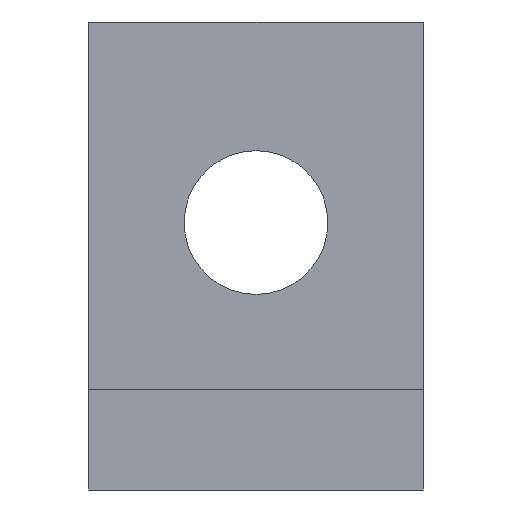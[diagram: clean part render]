
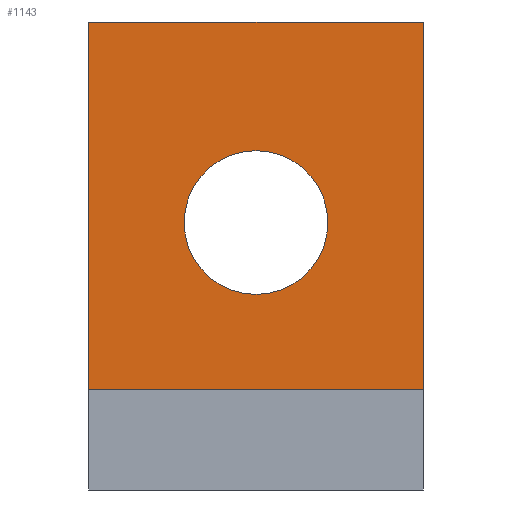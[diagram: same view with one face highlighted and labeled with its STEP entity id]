
A CAD part, front view. The second image highlights one B-rep face of the part: STEP entity #1143.
In plain terms, the highlighted planar face has unit normal (0, -1, 0).
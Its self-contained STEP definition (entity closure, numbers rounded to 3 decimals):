
#24 = VERTEX_POINT('',#25);
#25 = CARTESIAN_POINT('',(-5.,-5.7,13.));
#32 = PLANE('',#33);
#33 = AXIS2_PLACEMENT_3D('',#34,#35,#36);
#34 = CARTESIAN_POINT('',(-5.,-6.,10.));
#35 = DIRECTION('',(1.,0.,-0.));
#36 = DIRECTION('',(0.,0.,1.));
#44 = PLANE('',#45);
#45 = AXIS2_PLACEMENT_3D('',#46,#47,#48);
#46 = CARTESIAN_POINT('',(-5.,-6.,13.));
#47 = DIRECTION('',(0.,0.,1.));
#48 = DIRECTION('',(1.,0.,-0.));
#309 = VERTEX_POINT('',#310);
#310 = CARTESIAN_POINT('',(-5.,-5.7,24.));
#324 = PLANE('',#325);
#325 = AXIS2_PLACEMENT_3D('',#326,#327,#328);
#326 = CARTESIAN_POINT('',(-5.,-5.7,24.));
#327 = DIRECTION('',(0.,0.,1.));
#328 = DIRECTION('',(1.,0.,-0.));
#336 = EDGE_CURVE('',#24,#309,#337,.T.);
#337 = SURFACE_CURVE('',#338,(#342,#349),.PCURVE_S1.);
#338 = LINE('',#339,#340);
#339 = CARTESIAN_POINT('',(-5.,-5.7,12.));
#340 = VECTOR('',#341,1.);
#341 = DIRECTION('',(0.,0.,1.));
#342 = PCURVE('',#32,#343);
#343 = DEFINITIONAL_REPRESENTATION('',(#344),#348);
#344 = LINE('',#345,#346);
#345 = CARTESIAN_POINT('',(2.,-0.3));
#346 = VECTOR('',#347,1.);
#347 = DIRECTION('',(1.,0.));
#348 = ( GEOMETRIC_REPRESENTATION_CONTEXT(2) 
PARAMETRIC_REPRESENTATION_CONTEXT() REPRESENTATION_CONTEXT('2D SPACE',''
  ) );
#349 = PCURVE('',#350,#355);
#350 = PLANE('',#351);
#351 = AXIS2_PLACEMENT_3D('',#352,#353,#354);
#352 = CARTESIAN_POINT('',(-5.,-5.7,12.));
#353 = DIRECTION('',(-0.,1.,0.));
#354 = DIRECTION('',(0.,0.,1.));
#355 = DEFINITIONAL_REPRESENTATION('',(#356),#360);
#356 = LINE('',#357,#358);
#357 = CARTESIAN_POINT('',(0.,0.));
#358 = VECTOR('',#359,1.);
#359 = DIRECTION('',(1.,0.));
#360 = ( GEOMETRIC_REPRESENTATION_CONTEXT(2) 
PARAMETRIC_REPRESENTATION_CONTEXT() REPRESENTATION_CONTEXT('2D SPACE',''
  ) );
#390 = VERTEX_POINT('',#391);
#391 = CARTESIAN_POINT('',(5.,-5.7,13.));
#405 = PLANE('',#406);
#406 = AXIS2_PLACEMENT_3D('',#407,#408,#409);
#407 = CARTESIAN_POINT('',(5.,-6.,10.));
#408 = DIRECTION('',(1.,0.,-0.));
#409 = DIRECTION('',(0.,0.,1.));
#417 = EDGE_CURVE('',#390,#24,#418,.T.);
#418 = SURFACE_CURVE('',#419,(#423,#429),.PCURVE_S1.);
#419 = LINE('',#420,#421);
#420 = CARTESIAN_POINT('',(-5.,-5.7,13.));
#421 = VECTOR('',#422,1.);
#422 = DIRECTION('',(-1.,-0.,0.));
#423 = PCURVE('',#44,#424);
#424 = DEFINITIONAL_REPRESENTATION('',(#425),#428);
#425 = B_SPLINE_CURVE_WITH_KNOTS('',1,(#426,#427),.UNSPECIFIED.,.F.,.F.,
  (2,2),(-10.,0.),.PIECEWISE_BEZIER_KNOTS.);
#426 = CARTESIAN_POINT('',(10.,0.3));
#427 = CARTESIAN_POINT('',(0.,0.3));
#428 = ( GEOMETRIC_REPRESENTATION_CONTEXT(2) 
PARAMETRIC_REPRESENTATION_CONTEXT() REPRESENTATION_CONTEXT('2D SPACE',''
  ) );
#429 = PCURVE('',#350,#430);
#430 = DEFINITIONAL_REPRESENTATION('',(#431),#434);
#431 = B_SPLINE_CURVE_WITH_KNOTS('',1,(#432,#433),.UNSPECIFIED.,.F.,.F.,
  (2,2),(-10.,0.),.PIECEWISE_BEZIER_KNOTS.);
#432 = CARTESIAN_POINT('',(1.,10.));
#433 = CARTESIAN_POINT('',(1.,0.));
#434 = ( GEOMETRIC_REPRESENTATION_CONTEXT(2) 
PARAMETRIC_REPRESENTATION_CONTEXT() REPRESENTATION_CONTEXT('2D SPACE',''
  ) );
#1083 = CYLINDRICAL_SURFACE('',#1084,2.15);
#1084 = AXIS2_PLACEMENT_3D('',#1085,#1086,#1087);
#1085 = CARTESIAN_POINT('',(0.,7.,18.));
#1086 = DIRECTION('',(0.,-1.,0.));
#1087 = DIRECTION('',(1.,0.,0.));
#1099 = EDGE_CURVE('',#309,#1100,#1102,.T.);
#1100 = VERTEX_POINT('',#1101);
#1101 = CARTESIAN_POINT('',(5.,-5.7,24.));
#1102 = SURFACE_CURVE('',#1103,(#1107,#1114),.PCURVE_S1.);
#1103 = LINE('',#1104,#1105);
#1104 = CARTESIAN_POINT('',(-5.,-5.7,24.));
#1105 = VECTOR('',#1106,1.);
#1106 = DIRECTION('',(1.,0.,-0.));
#1107 = PCURVE('',#324,#1108);
#1108 = DEFINITIONAL_REPRESENTATION('',(#1109),#1113);
#1109 = LINE('',#1110,#1111);
#1110 = CARTESIAN_POINT('',(0.,0.));
#1111 = VECTOR('',#1112,1.);
#1112 = DIRECTION('',(1.,0.));
#1113 = ( GEOMETRIC_REPRESENTATION_CONTEXT(2) 
PARAMETRIC_REPRESENTATION_CONTEXT() REPRESENTATION_CONTEXT('2D SPACE',''
  ) );
#1114 = PCURVE('',#350,#1115);
#1115 = DEFINITIONAL_REPRESENTATION('',(#1116),#1120);
#1116 = LINE('',#1117,#1118);
#1117 = CARTESIAN_POINT('',(12.,0.));
#1118 = VECTOR('',#1119,1.);
#1119 = DIRECTION('',(0.,1.));
#1120 = ( GEOMETRIC_REPRESENTATION_CONTEXT(2) 
PARAMETRIC_REPRESENTATION_CONTEXT() REPRESENTATION_CONTEXT('2D SPACE',''
  ) );
#1143 = ADVANCED_FACE('',(#1144,#1170),#350,.F.);
#1144 = FACE_BOUND('',#1145,.F.);
#1145 = EDGE_LOOP('',(#1146,#1167,#1168,#1169));
#1146 = ORIENTED_EDGE('',*,*,#1147,.F.);
#1147 = EDGE_CURVE('',#390,#1100,#1148,.T.);
#1148 = SURFACE_CURVE('',#1149,(#1153,#1160),.PCURVE_S1.);
#1149 = LINE('',#1150,#1151);
#1150 = CARTESIAN_POINT('',(5.,-5.7,12.));
#1151 = VECTOR('',#1152,1.);
#1152 = DIRECTION('',(0.,0.,1.));
#1153 = PCURVE('',#350,#1154);
#1154 = DEFINITIONAL_REPRESENTATION('',(#1155),#1159);
#1155 = LINE('',#1156,#1157);
#1156 = CARTESIAN_POINT('',(0.,10.));
#1157 = VECTOR('',#1158,1.);
#1158 = DIRECTION('',(1.,0.));
#1159 = ( GEOMETRIC_REPRESENTATION_CONTEXT(2) 
PARAMETRIC_REPRESENTATION_CONTEXT() REPRESENTATION_CONTEXT('2D SPACE',''
  ) );
#1160 = PCURVE('',#405,#1161);
#1161 = DEFINITIONAL_REPRESENTATION('',(#1162),#1166);
#1162 = LINE('',#1163,#1164);
#1163 = CARTESIAN_POINT('',(2.,-0.3));
#1164 = VECTOR('',#1165,1.);
#1165 = DIRECTION('',(1.,0.));
#1166 = ( GEOMETRIC_REPRESENTATION_CONTEXT(2) 
PARAMETRIC_REPRESENTATION_CONTEXT() REPRESENTATION_CONTEXT('2D SPACE',''
  ) );
#1167 = ORIENTED_EDGE('',*,*,#417,.T.);
#1168 = ORIENTED_EDGE('',*,*,#336,.T.);
#1169 = ORIENTED_EDGE('',*,*,#1099,.T.);
#1170 = FACE_BOUND('',#1171,.F.);
#1171 = EDGE_LOOP('',(#1172));
#1172 = ORIENTED_EDGE('',*,*,#1173,.T.);
#1173 = EDGE_CURVE('',#1174,#1174,#1176,.T.);
#1174 = VERTEX_POINT('',#1175);
#1175 = CARTESIAN_POINT('',(2.15,-5.7,18.));
#1176 = SURFACE_CURVE('',#1177,(#1182,#1193),.PCURVE_S1.);
#1177 = CIRCLE('',#1178,2.15);
#1178 = AXIS2_PLACEMENT_3D('',#1179,#1180,#1181);
#1179 = CARTESIAN_POINT('',(0.,-5.7,18.));
#1180 = DIRECTION('',(0.,-1.,0.));
#1181 = DIRECTION('',(1.,0.,0.));
#1182 = PCURVE('',#350,#1183);
#1183 = DEFINITIONAL_REPRESENTATION('',(#1184),#1192);
#1184 = ( BOUNDED_CURVE() B_SPLINE_CURVE(2,(#1185,#1186,#1187,#1188,
#1189,#1190,#1191),.UNSPECIFIED.,.T.,.F.) B_SPLINE_CURVE_WITH_KNOTS((1,2
    ,2,2,2,1),(-2.094,0.,2.094,4.189,
6.283,8.378),.UNSPECIFIED.) CURVE() 
GEOMETRIC_REPRESENTATION_ITEM() RATIONAL_B_SPLINE_CURVE((1.,0.5,1.,0.5,
1.,0.5,1.)) REPRESENTATION_ITEM('') );
#1185 = CARTESIAN_POINT('',(6.,7.15));
#1186 = CARTESIAN_POINT('',(9.724,7.15));
#1187 = CARTESIAN_POINT('',(7.862,3.925));
#1188 = CARTESIAN_POINT('',(6.,0.7));
#1189 = CARTESIAN_POINT('',(4.138,3.925));
#1190 = CARTESIAN_POINT('',(2.276,7.15));
#1191 = CARTESIAN_POINT('',(6.,7.15));
#1192 = ( GEOMETRIC_REPRESENTATION_CONTEXT(2) 
PARAMETRIC_REPRESENTATION_CONTEXT() REPRESENTATION_CONTEXT('2D SPACE',''
  ) );
#1193 = PCURVE('',#1083,#1194);
#1194 = DEFINITIONAL_REPRESENTATION('',(#1195),#1199);
#1195 = LINE('',#1196,#1197);
#1196 = CARTESIAN_POINT('',(0.,12.7));
#1197 = VECTOR('',#1198,1.);
#1198 = DIRECTION('',(1.,0.));
#1199 = ( GEOMETRIC_REPRESENTATION_CONTEXT(2) 
PARAMETRIC_REPRESENTATION_CONTEXT() REPRESENTATION_CONTEXT('2D SPACE',''
  ) );
